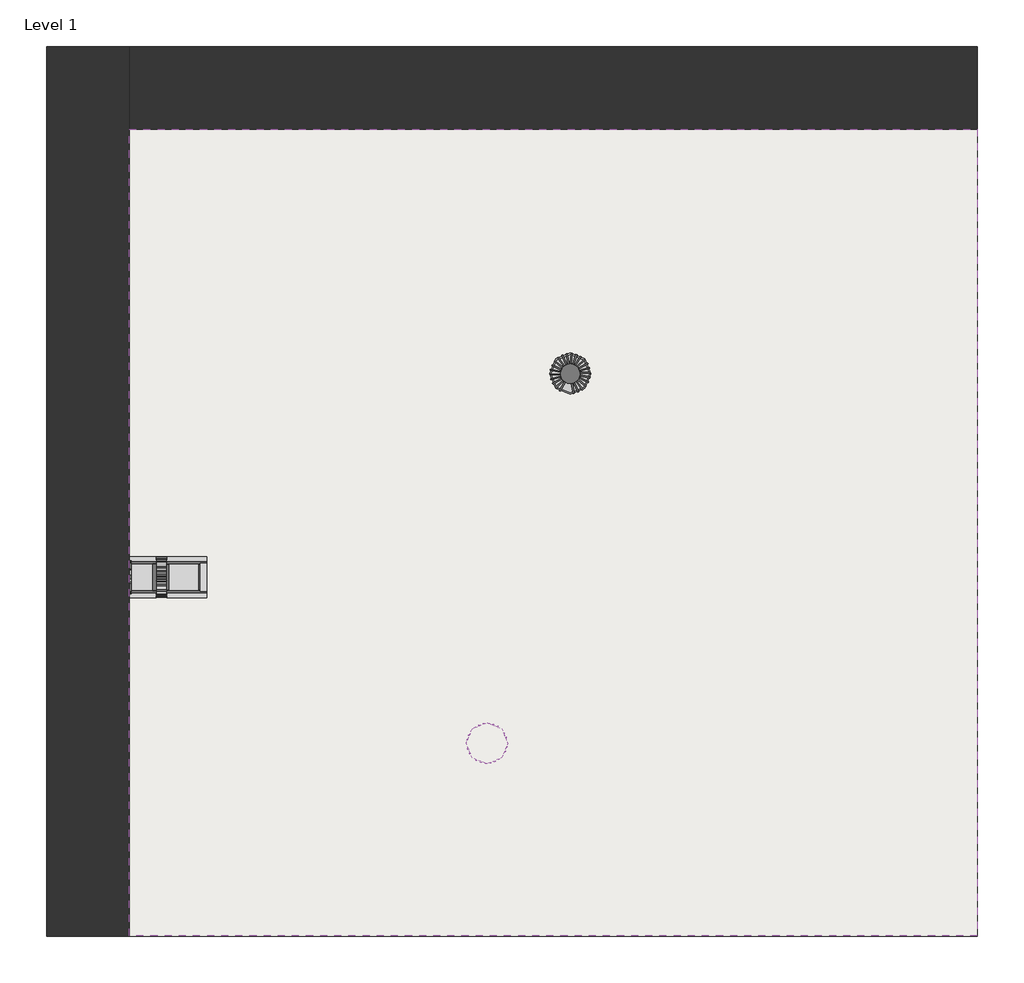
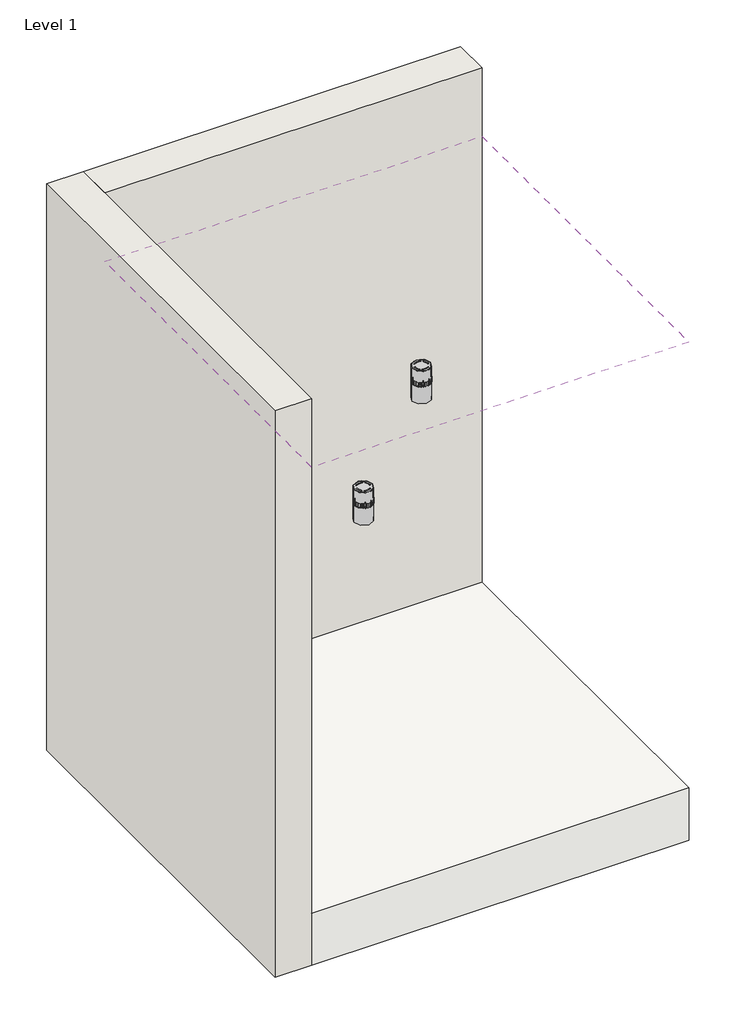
# One storey: 3 light fixtures, 2 walls, 1 covering, 1 slab.
"""IFC4 building model written with IfcOpenShell, lengths in millimetres."""

from ifc_helpers import new_model, si_unit, frame, origin, place, context, project, spatial, polyline, outline, extrude, faceted_brep, transform, mapped, element, save
from components import light_fixture_ba52d31d

model = new_model("IFC4")

# Units and contexts
model_context = context("Model", 3, world=origin())
ifc_project = project(units=[si_unit("LENGTHUNIT", "METRE", prefix="MILLI")], contexts=[model_context])

# Site, building, storey
site = spatial("IfcSite", under=ifc_project)
building = spatial("IfcBuilding", under=site)
storey = spatial("IfcBuildingStorey", under=building, Name="Level 1", Elevation=0.0)

# Covering
placement = place(None, origin())
element("IfcCovering", 1, ObjectType="Ceiling 2", at=placement, inside=storey, context=model_context, shape_type="SweptSolid", body=[
    extrude(outline(polyline([(4291.0676417, 3741.7404022), (4291.0676417, 1760.5404022), (2208.2676417, 1760.5404022), (2208.2676417, 3741.7404022), (4291.0676417, 3741.7404022)])), frame((0.0, 0.0, 2600.0), z_axis=(0.0, 0.0, 1.0), x_axis=(1.0, 0.0, 0.0)), (0.0, 0.0, 1.0), 25.4),
])

# Light fixtures
light_fixture_shape = light_fixture_ba52d31d(model_context)
element("IfcLightFixture", 2, ObjectType="LCALD4_SURFACE MOUNT BASIC CYLINDER : LCALD4060-T40", at=placement, inside=storey, context=model_context, shape_type="MappedRepresentation", body=[
    mapped(light_fixture_shape, transform((2208.2676417, 2641.7404022, 1134.7714181), x_axis=(0.0, 1.0, 0.0), y_axis=(0.0, 0.0, -1.0), z_axis=(-1.0, 0.0, 0.0))),
])
element("IfcLightFixture", 3, ObjectType="LCALD4_SURFACE MOUNT BASIC CYLINDER : LCALD4220-B45-T40", at=placement, inside=storey, context=model_context, shape_type="MappedRepresentation", body=[
    mapped(light_fixture_shape, transform((3086.6777316, 2267.5018189, 2600.0), x_axis=(1.0, 0.0, 0.0), y_axis=(0.0, 1.0, 0.0), z_axis=(0.0, 0.0, 1.0))),
])
element("IfcLightFixture", 4, ObjectType="LCALD4_SURFACE MOUNT BASIC CYLINDER : LCALD4120-T40", at=placement, inside=storey, context=model_context, shape_type="MappedRepresentation", body=[
    mapped(light_fixture_shape, transform((3291.0676417, 3175.5396904, 1270.0), x_axis=(1.0, 0.0, 0.0), y_axis=(0.0, 1.0, 0.0), z_axis=(0.0, 0.0, 1.0))),
])

# Slab
element("IfcSlab", 5, ObjectType="Floor 1", at=placement, inside=storey, context=model_context, shape_type="SweptSolid", body=[
    extrude(outline(polyline([(4291.0676417, 3741.7404022), (4291.0676417, 1760.5404022), (2208.2676417, 1760.5404022), (2208.2676417, 3741.7404022), (4291.0676417, 3741.7404022)])), frame((0.0, 0.0, -304.8), z_axis=(0.0, 0.0, 1.0), x_axis=(1.0, 0.0, 0.0)), (0.0, 0.0, 1.0), 304.8),
])

# Walls
element("IfcWall", 6, ObjectType="Wall 1", at=placement, inside=storey, context=model_context, shape_type="Brep", body=[
    faceted_brep([(2005.0676417, 3944.9404022, -304.8), (2005.0676417, 1760.5404022, -304.8), (2005.0676417, 1760.5404022, 3000.0), (2005.0676417, 3944.9404022, 3000.0), (2208.2676417, 3944.9404022, -304.8), (2208.2676417, 3944.9404022, 3000.0), (2208.2676417, 3741.7404022, 3000.0), (2208.2676417, 1760.5404022, 3000.0), (2208.2676417, 1760.5404022, -304.8), (2208.2676417, 3741.7404022, -304.8)], [[[0, 1, 2, 3]], [[4, 5, 6, 7, 8, 9]], [[1, 0, 4, 9, 8]], [[2, 1, 8, 7]], [[3, 2, 7, 6, 5]], [[0, 3, 5, 4]]]),
])
element("IfcWall", 7, ObjectType="Wall 1", at=placement, inside=storey, context=model_context, shape_type="SweptSolid", body=[
    extrude(outline(polyline([(4291.0676417, 3741.7404022), (2208.2676417, 3741.7404022), (2208.2676417, 3944.9404022), (4291.0676417, 3944.9404022), (4291.0676417, 3741.7404022)])), frame((0.0, 0.0, -304.8), z_axis=(0.0, 0.0, 1.0), x_axis=(1.0, 0.0, 0.0)), (0.0, 0.0, 1.0), 3304.8),
])

save(model, "model.ifc")
